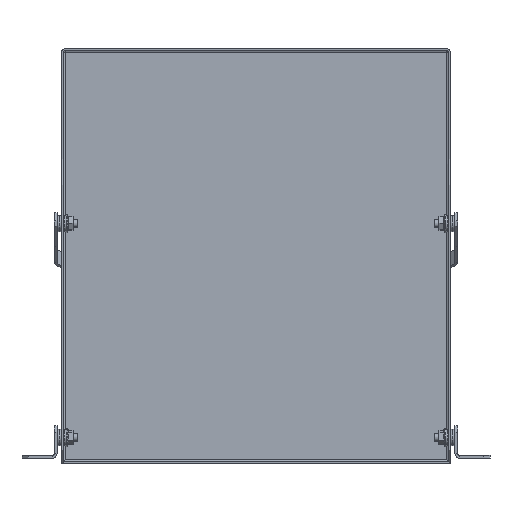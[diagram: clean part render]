
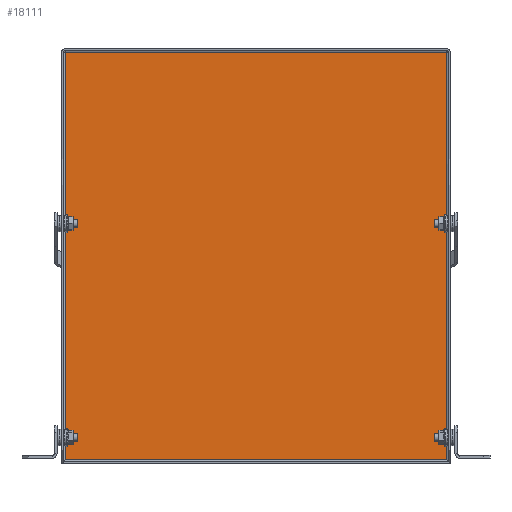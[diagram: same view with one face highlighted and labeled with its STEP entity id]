
A CAD part, front view. The second image highlights one B-rep face of the part: STEP entity #18111.
In plain terms, the highlighted planar face has unit normal (0, -1, 0) as drawn and (0, 1, 0) by its records, which use the part's own axes.
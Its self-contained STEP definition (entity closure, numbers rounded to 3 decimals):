
#381 = VECTOR ( 'NONE', #18114, 1000. ) ;
#803 = LINE ( 'NONE', #9446, #381 ) ;
#1284 = VECTOR ( 'NONE', #3826, 1000. ) ;
#1294 = VERTEX_POINT ( 'NONE', #3093 ) ;
#1793 = LINE ( 'NONE', #27740, #25084 ) ;
#1992 = ORIENTED_EDGE ( 'NONE', *, *, #24700, .F. ) ;
#3093 = CARTESIAN_POINT ( 'NONE',  ( 147., 1.5, -157. ) ) ;
#3159 = VECTOR ( 'NONE', #24904, 1000. ) ;
#3826 = DIRECTION ( 'NONE',  ( 0., 0., 1. ) ) ;
#4932 = AXIS2_PLACEMENT_3D ( 'NONE', #6804, #10773, #11201 ) ;
#5026 = VERTEX_POINT ( 'NONE', #21187 ) ;
#6804 = CARTESIAN_POINT ( 'NONE',  ( 0., 1.5, 0. ) ) ;
#7046 = EDGE_LOOP ( 'NONE', ( #12683, #12200, #19787, #1992 ) ) ;
#7091 = PLANE ( 'NONE',  #4932 ) ;
#7778 = EDGE_CURVE ( 'NONE', #1294, #17985, #12493, .T. ) ;
#9446 = CARTESIAN_POINT ( 'NONE',  ( 0., 1.5, 157. ) ) ;
#9663 = EDGE_CURVE ( 'NONE', #17985, #24928, #803, .T. ) ;
#9927 = CARTESIAN_POINT ( 'NONE',  ( 147., 1.5, 157. ) ) ;
#10471 = DIRECTION ( 'NONE',  ( 1., 0., 0. ) ) ;
#10773 = DIRECTION ( 'NONE',  ( 0., 1., 0. ) ) ;
#11201 = DIRECTION ( 'NONE',  ( 0., 0., 1. ) ) ;
#12052 = LINE ( 'NONE', #14196, #3159 ) ;
#12200 = ORIENTED_EDGE ( 'NONE', *, *, #9663, .F. ) ;
#12493 = LINE ( 'NONE', #25198, #1284 ) ;
#12683 = ORIENTED_EDGE ( 'NONE', *, *, #13787, .F. ) ;
#13361 = FACE_OUTER_BOUND ( 'NONE', #7046, .T. ) ;
#13787 = EDGE_CURVE ( 'NONE', #24928, #5026, #12052, .T. ) ;
#14196 = CARTESIAN_POINT ( 'NONE',  ( -147., 1.5, 0. ) ) ;
#14299 = CARTESIAN_POINT ( 'NONE',  ( -147., 1.5, 157. ) ) ;
#17985 = VERTEX_POINT ( 'NONE', #9927 ) ;
#18111 = ADVANCED_FACE ( 'NONE', ( #13361 ), #7091, .T. ) ;
#18114 = DIRECTION ( 'NONE',  ( -1., 0., 0. ) ) ;
#19787 = ORIENTED_EDGE ( 'NONE', *, *, #7778, .F. ) ;
#21187 = CARTESIAN_POINT ( 'NONE',  ( -147., 1.5, -157. ) ) ;
#24700 = EDGE_CURVE ( 'NONE', #5026, #1294, #1793, .T. ) ;
#24904 = DIRECTION ( 'NONE',  ( 0., 0., -1. ) ) ;
#24928 = VERTEX_POINT ( 'NONE', #14299 ) ;
#25084 = VECTOR ( 'NONE', #10471, 1000. ) ;
#25198 = CARTESIAN_POINT ( 'NONE',  ( 147., 1.5, 0. ) ) ;
#27740 = CARTESIAN_POINT ( 'NONE',  ( 0., 1.5, -157. ) ) ;
